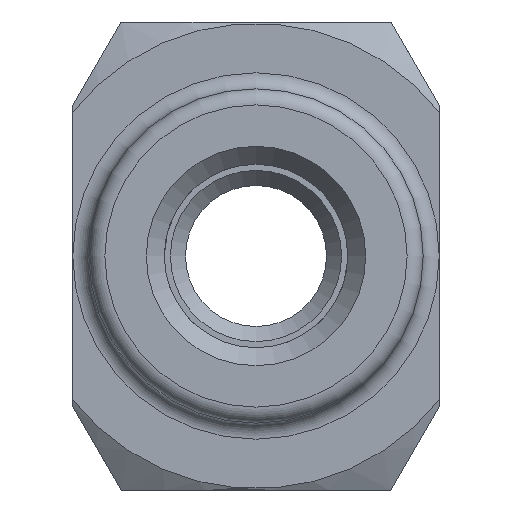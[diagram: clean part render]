
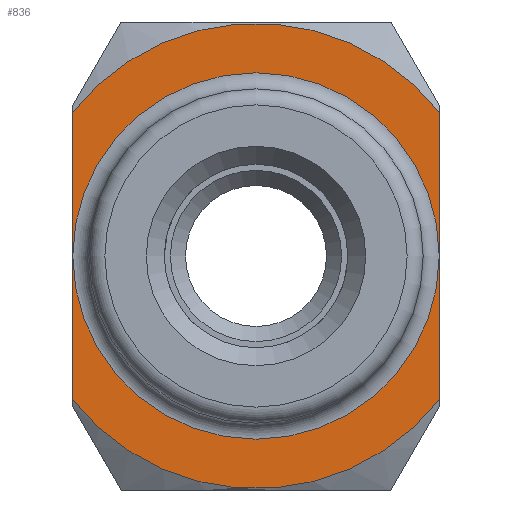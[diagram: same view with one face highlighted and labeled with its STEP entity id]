
A CAD part, front view. The second image highlights one B-rep face of the part: STEP entity #836.
In plain terms, the highlighted planar face has unit normal (0, -1, 0).
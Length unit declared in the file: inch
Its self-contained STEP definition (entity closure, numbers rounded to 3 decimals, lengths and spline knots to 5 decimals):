
#45=PLANE('',#946);
#60=FACE_BOUND('',#167,.T.);
#116=FACE_OUTER_BOUND('',#166,.T.);
#166=EDGE_LOOP('',(#667,#668,#669,#670));
#167=EDGE_LOOP('',(#671,#672));
#209=LINE('',#1442,#241);
#210=LINE('',#1446,#242);
#241=VECTOR('',#1158,0.3937);
#242=VECTOR('',#1161,0.3937);
#296=CIRCLE('',#943,0.3425);
#298=CIRCLE('',#945,0.3425);
#299=CIRCLE('',#947,0.435);
#300=CIRCLE('',#948,0.435);
#366=VERTEX_POINT('',#1434);
#367=VERTEX_POINT('',#1435);
#368=VERTEX_POINT('',#1440);
#369=VERTEX_POINT('',#1441);
#370=VERTEX_POINT('',#1443);
#371=VERTEX_POINT('',#1445);
#475=EDGE_CURVE('',#366,#367,#296,.T.);
#477=EDGE_CURVE('',#367,#366,#298,.T.);
#478=EDGE_CURVE('',#368,#369,#209,.T.);
#479=EDGE_CURVE('',#370,#369,#299,.T.);
#480=EDGE_CURVE('',#370,#371,#210,.T.);
#481=EDGE_CURVE('',#368,#371,#300,.T.);
#667=ORIENTED_EDGE('',*,*,#478,.T.);
#668=ORIENTED_EDGE('',*,*,#479,.F.);
#669=ORIENTED_EDGE('',*,*,#480,.T.);
#670=ORIENTED_EDGE('',*,*,#481,.F.);
#671=ORIENTED_EDGE('',*,*,#475,.F.);
#672=ORIENTED_EDGE('',*,*,#477,.F.);
#836=ADVANCED_FACE('',(#116,#60),#45,.T.);
#943=AXIS2_PLACEMENT_3D('',#1436,#1150,#1151);
#945=AXIS2_PLACEMENT_3D('',#1438,#1154,#1155);
#946=AXIS2_PLACEMENT_3D('',#1439,#1156,#1157);
#947=AXIS2_PLACEMENT_3D('',#1444,#1159,#1160);
#948=AXIS2_PLACEMENT_3D('',#1447,#1162,#1163);
#1150=DIRECTION('center_axis',(0.,-1.,0.));
#1151=DIRECTION('ref_axis',(0.,0.,1.));
#1154=DIRECTION('center_axis',(0.,-1.,0.));
#1155=DIRECTION('ref_axis',(0.,0.,1.));
#1156=DIRECTION('center_axis',(0.,-1.,0.));
#1157=DIRECTION('ref_axis',(0.,0.,-1.));
#1158=DIRECTION('',(0.,0.,-1.));
#1159=DIRECTION('center_axis',(0.,1.,0.));
#1160=DIRECTION('ref_axis',(0.,0.,1.));
#1161=DIRECTION('',(0.,0.,1.));
#1162=DIRECTION('center_axis',(0.,1.,0.));
#1163=DIRECTION('ref_axis',(0.,0.,1.));
#1434=CARTESIAN_POINT('',(0.,0.281,-0.3425));
#1435=CARTESIAN_POINT('',(0.,0.281,0.3425));
#1436=CARTESIAN_POINT('Origin',(0.,0.281,0.));
#1438=CARTESIAN_POINT('Origin',(0.,0.281,0.));
#1439=CARTESIAN_POINT('Origin',(0.,0.281,-0.3125));
#1440=CARTESIAN_POINT('',(-0.343,0.281,0.26754));
#1441=CARTESIAN_POINT('',(-0.343,0.281,-0.26754));
#1442=CARTESIAN_POINT('',(-0.343,0.281,-0.0158));
#1443=CARTESIAN_POINT('',(0.343,0.281,-0.26754));
#1444=CARTESIAN_POINT('Origin',(0.,0.281,0.));
#1445=CARTESIAN_POINT('',(0.343,0.281,0.26754));
#1446=CARTESIAN_POINT('',(0.343,0.281,-0.2967));
#1447=CARTESIAN_POINT('Origin',(0.,0.281,0.));
